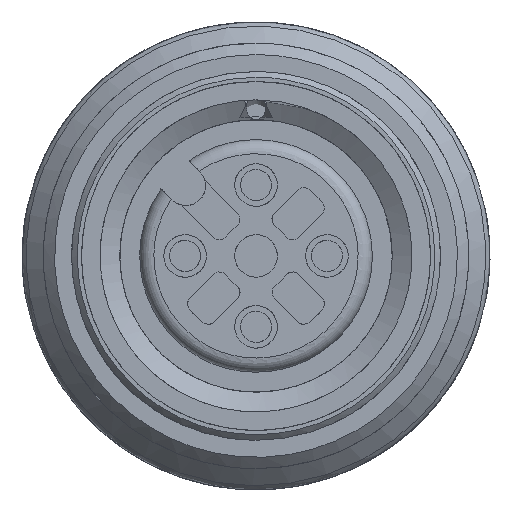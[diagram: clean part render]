
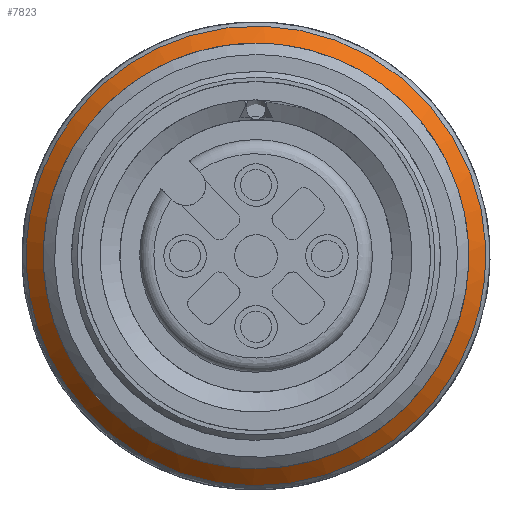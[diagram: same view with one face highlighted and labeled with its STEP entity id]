
A CAD part, front view. The second image highlights one B-rep face of the part: STEP entity #7823.
In plain terms, the highlighted conical face has half-angle 45 degrees and reference radius 8.104 mm.
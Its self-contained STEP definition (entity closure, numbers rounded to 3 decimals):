
#63 = CARTESIAN_POINT ( 'NONE',  ( -0.935, 1.396, -7.146 ) ) ;
#208 = CARTESIAN_POINT ( 'NONE',  ( -5.715, 1.396, 4.392 ) ) ;
#259 = CARTESIAN_POINT ( 'NONE',  ( 7.146, 1.396, -0.935 ) ) ;
#376 = VERTEX_POINT ( 'NONE', #4138 ) ;
#575 = AXIS2_PLACEMENT_3D ( 'NONE', #10603, #6561, #11660 ) ;
#1300 = CARTESIAN_POINT ( 'NONE',  ( -3.599, 1.396, 6.244 ) ) ;
#1352 = CARTESIAN_POINT ( 'NONE',  ( 6.244, 1.396, -3.599 ) ) ;
#1447 = ORIENTED_EDGE ( 'NONE', *, *, #7362, .T. ) ;
#2356 = CARTESIAN_POINT ( 'NONE',  ( -3.599, 1.396, -6.244 ) ) ;
#2400 = CARTESIAN_POINT ( 'NONE',  ( -0.935, 1.396, 7.146 ) ) ;
#2432 = FACE_OUTER_BOUND ( 'NONE', #2778, .T. ) ;
#2454 = CARTESIAN_POINT ( 'NONE',  ( 4.392, 1.396, -5.715 ) ) ;
#2778 = EDGE_LOOP ( 'NONE', ( #4708 ) ) ;
#3475 = CARTESIAN_POINT ( 'NONE',  ( -5.715, 1.396, -4.392 ) ) ;
#3523 = CARTESIAN_POINT ( 'NONE',  ( 1.871, 1.396, 6.96 ) ) ;
#3572 = CARTESIAN_POINT ( 'NONE',  ( 1.871, 1.396, -6.96 ) ) ;
#3914 =( BOUNDED_CURVE ( )  B_SPLINE_CURVE ( 3, ( #10510, #13581, #4392, #11559, #5436, #12583, #6466 ),
 .UNSPECIFIED., .T., .T. ) 
 B_SPLINE_CURVE_WITH_KNOTS ( ( 4, 3, 4 ),
 ( 0., 0.5, 1. ),
 .UNSPECIFIED. ) 
 CURVE ( )  GEOMETRIC_REPRESENTATION_ITEM ( )  RATIONAL_B_SPLINE_CURVE ( ( 1., 0.333, 0.333, 1., 0.333, 0.333, 1. ) ) 
 REPRESENTATION_ITEM ( '' )  );
#4138 = CARTESIAN_POINT ( 'NONE',  ( 5.73, 2.354, -5.73 ) ) ;
#4392 = CARTESIAN_POINT ( 'NONE',  ( -17.19, 2.354, -5.73 ) ) ;
#4546 = CARTESIAN_POINT ( 'NONE',  ( -6.96, 1.396, -1.871 ) ) ;
#4597 = CARTESIAN_POINT ( 'NONE',  ( 4.392, 1.396, 5.715 ) ) ;
#4640 = CARTESIAN_POINT ( 'NONE',  ( 0., 1.396, -7.146 ) ) ;
#4647 = CONICAL_SURFACE ( 'NONE', #575, 8.104, 0.785 ) ;
#4708 = ORIENTED_EDGE ( 'NONE', *, *, #10715, .F. ) ;
#4800 = B_SPLINE_CURVE_WITH_KNOTS ( 'NONE', 3,
 ( #7572, #63, #8573, #2356, #9626, #3475, #10671, #4546, #11716, #5588, #12723, #6616, #208, #7619, #1300, #8625, #2400, #9674, #3523, #10718, #4597, #11759, #5631, #12771, #6656, #259, #7661, #1352, #8666, #2454, #9720, #3572, #10763, #4640 ),
 .UNSPECIFIED., .T., .F.,
 ( 4, 2, 2, 2, 2, 2, 2, 2, 2, 2, 2, 2, 2, 2, 2, 2, 4 ),
 ( 0., 0.063, 0.125, 0.188, 0.25, 0.313, 0.375, 0.437, 0.5, 0.562, 0.625, 0.687, 0.75, 0.813, 0.875, 0.938, 1. ),
 .UNSPECIFIED. ) ;
#4960 = EDGE_LOOP ( 'NONE', ( #1447 ) ) ;
#4977 = FACE_BOUND ( 'NONE', #4960, .T. ) ;
#5436 = CARTESIAN_POINT ( 'NONE',  ( 5.73, 2.354, 17.19 ) ) ;
#5588 = CARTESIAN_POINT ( 'NONE',  ( -7.146, 1.396, 0.935 ) ) ;
#5631 = CARTESIAN_POINT ( 'NONE',  ( 6.244, 1.396, 3.599 ) ) ;
#6466 = CARTESIAN_POINT ( 'NONE',  ( 5.73, 2.354, -5.73 ) ) ;
#6561 = DIRECTION ( 'NONE',  ( 0., 1., 0. ) ) ;
#6616 = CARTESIAN_POINT ( 'NONE',  ( -6.244, 1.396, 3.599 ) ) ;
#6656 = CARTESIAN_POINT ( 'NONE',  ( 7.146, 1.396, 0.935 ) ) ;
#7362 = EDGE_CURVE ( 'NONE', #12153, #12153, #4800, .T. ) ;
#7572 = CARTESIAN_POINT ( 'NONE',  ( 0., 1.396, -7.146 ) ) ;
#7619 = CARTESIAN_POINT ( 'NONE',  ( -4.392, 1.396, 5.715 ) ) ;
#7661 = CARTESIAN_POINT ( 'NONE',  ( 6.96, 1.396, -1.871 ) ) ;
#7823 = ADVANCED_FACE ( 'NONE', ( #4977, #2432 ), #4647, .T. ) ;
#8573 = CARTESIAN_POINT ( 'NONE',  ( -1.871, 1.396, -6.96 ) ) ;
#8625 = CARTESIAN_POINT ( 'NONE',  ( -1.871, 1.396, 6.96 ) ) ;
#8666 = CARTESIAN_POINT ( 'NONE',  ( 5.715, 1.396, -4.392 ) ) ;
#9626 = CARTESIAN_POINT ( 'NONE',  ( -4.392, 1.396, -5.715 ) ) ;
#9674 = CARTESIAN_POINT ( 'NONE',  ( 0.935, 1.396, 7.146 ) ) ;
#9720 = CARTESIAN_POINT ( 'NONE',  ( 3.599, 1.396, -6.244 ) ) ;
#10214 = CARTESIAN_POINT ( 'NONE',  ( 0., 1.396, -7.146 ) ) ;
#10510 = CARTESIAN_POINT ( 'NONE',  ( 5.73, 2.354, -5.73 ) ) ;
#10603 = CARTESIAN_POINT ( 'NONE',  ( 0., 2.354, 0. ) ) ;
#10671 = CARTESIAN_POINT ( 'NONE',  ( -6.244, 1.396, -3.599 ) ) ;
#10715 = EDGE_CURVE ( 'NONE', #376, #376, #3914, .T. ) ;
#10718 = CARTESIAN_POINT ( 'NONE',  ( 3.599, 1.396, 6.244 ) ) ;
#10763 = CARTESIAN_POINT ( 'NONE',  ( 0.935, 1.396, -7.146 ) ) ;
#11559 = CARTESIAN_POINT ( 'NONE',  ( -5.73, 2.354, 5.73 ) ) ;
#11660 = DIRECTION ( 'NONE',  ( 1., 0., 0. ) ) ;
#11716 = CARTESIAN_POINT ( 'NONE',  ( -7.146, 1.396, -0.935 ) ) ;
#11759 = CARTESIAN_POINT ( 'NONE',  ( 5.715, 1.396, 4.392 ) ) ;
#12153 = VERTEX_POINT ( 'NONE', #10214 ) ;
#12583 = CARTESIAN_POINT ( 'NONE',  ( 17.19, 2.354, 5.73 ) ) ;
#12723 = CARTESIAN_POINT ( 'NONE',  ( -6.96, 1.396, 1.871 ) ) ;
#12771 = CARTESIAN_POINT ( 'NONE',  ( 6.96, 1.396, 1.871 ) ) ;
#13581 = CARTESIAN_POINT ( 'NONE',  ( -5.73, 2.354, -17.19 ) ) ;
